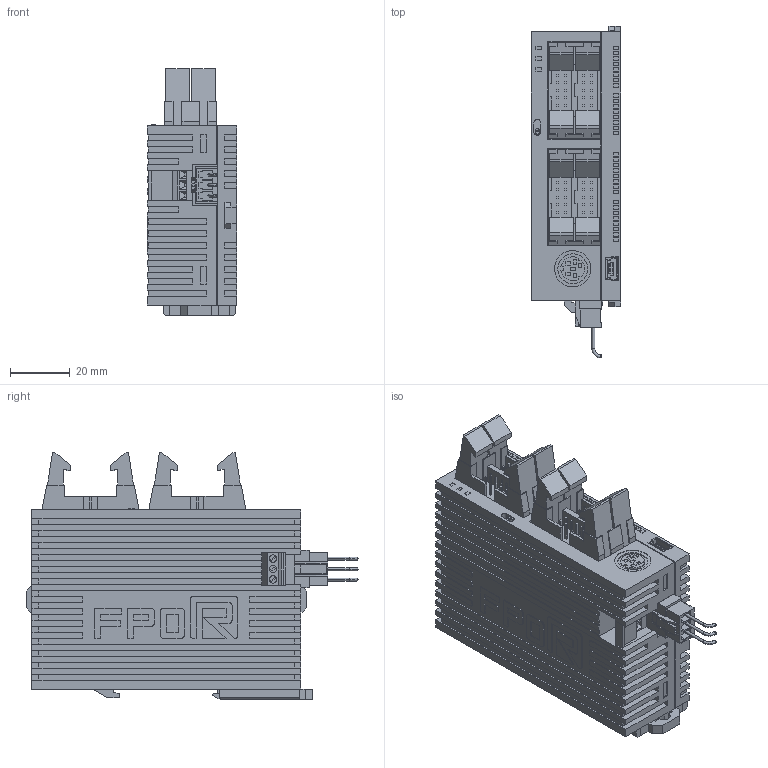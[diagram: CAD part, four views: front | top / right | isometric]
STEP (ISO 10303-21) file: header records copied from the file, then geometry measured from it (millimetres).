
FILE_DESCRIPTION (( 'STEP AP203' ), '1' );
FILE_NAME ('afp0rc32ct.STEP', '2013-06-28T04:34:40', ( 'sunx' ), ( 'sunx' ), 'SwSTEP 2.0', 'SolidWorks 2010', '' );
FILE_SCHEMA (( 'CONFIG_CONTROL_DESIGN' ));
Length unit declared in the file: millimetre
Products named in the file (1): afp0rc32ct
Bounding box: 30 x 111.2 x 82.7 mm (x, y, z)
Volume: 165611.3 mm3; surface area: 36216.3 mm2
Topology: 1 solids, 1 shells, 1320 faces, 3540 edges, 2344 vertices
Faces by surface type: plane 1248, cylinder 66, torus 6
Entity records: 40519 total; most frequent: CARTESIAN_POINT 7205, ORIENTED_EDGE 7080, DIRECTION 6332, EDGE_CURVE 3540, LINE 3390, VECTOR 3390, VERTEX_POINT 2344, AXIS2_PLACEMENT_3D 1471
